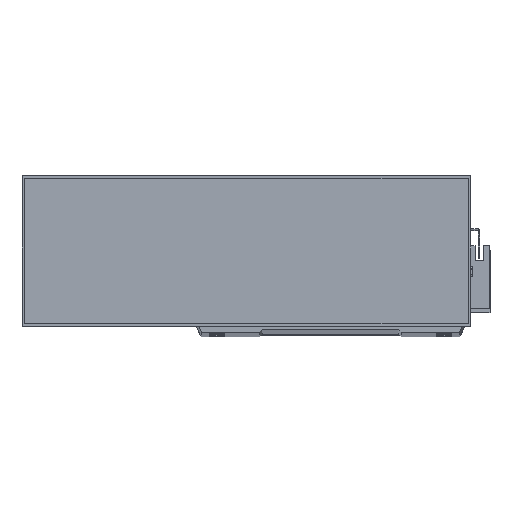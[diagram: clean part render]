
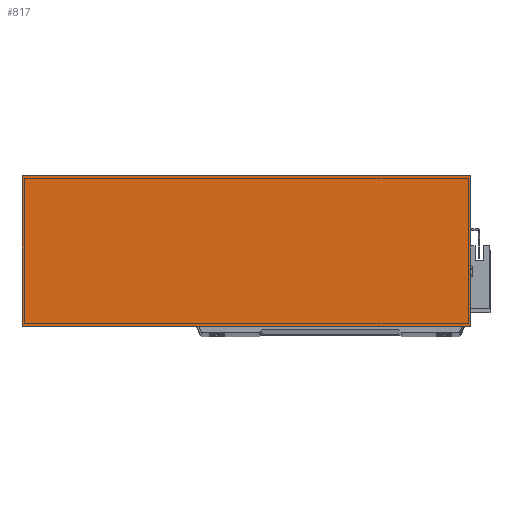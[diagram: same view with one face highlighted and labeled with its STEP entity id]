
A CAD part, top view. The second image highlights one B-rep face of the part: STEP entity #817.
In plain terms, the highlighted planar face has unit normal (0, 0, 1).
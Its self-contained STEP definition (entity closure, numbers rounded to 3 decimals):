
#475 = EDGE_CURVE ( 'NONE', #5508, #1080, #12428, .T. ) ;
#817 = ADVANCED_FACE ( 'NONE', ( #14632 ), #23972, .F. ) ;
#1080 = VERTEX_POINT ( 'NONE', #1683 ) ;
#1683 = CARTESIAN_POINT ( 'NONE',  ( 0., 93., 50. ) ) ;
#3337 = CARTESIAN_POINT ( 'NONE',  ( 277., 0., 50. ) ) ;
#4768 = VECTOR ( 'NONE', #17290, 1000. ) ;
#4957 = AXIS2_PLACEMENT_3D ( 'NONE', #16399, #24169, #24068 ) ;
#5236 = EDGE_CURVE ( 'NONE', #26557, #14274, #19202, .T. ) ;
#5508 = VERTEX_POINT ( 'NONE', #25889 ) ;
#8434 = EDGE_CURVE ( 'NONE', #14274, #5508, #12352, .T. ) ;
#10518 = DIRECTION ( 'NONE',  ( 1., 0., 0. ) ) ;
#11318 = ORIENTED_EDGE ( 'NONE', *, *, #475, .T. ) ;
#12352 = LINE ( 'NONE', #27212, #30562 ) ;
#12428 = LINE ( 'NONE', #23615, #25048 ) ;
#13559 = ORIENTED_EDGE ( 'NONE', *, *, #5236, .T. ) ;
#14274 = VERTEX_POINT ( 'NONE', #3337 ) ;
#14632 = FACE_OUTER_BOUND ( 'NONE', #27807, .T. ) ;
#14715 = EDGE_CURVE ( 'NONE', #1080, #26557, #30101, .T. ) ;
#15195 = CARTESIAN_POINT ( 'NONE',  ( 0., 0., 50. ) ) ;
#16399 = CARTESIAN_POINT ( 'NONE',  ( 0., 0., 50. ) ) ;
#17052 = DIRECTION ( 'NONE',  ( -1., 0., 0. ) ) ;
#17290 = DIRECTION ( 'NONE',  ( 0., -1., 0. ) ) ;
#17597 = DIRECTION ( 'NONE',  ( 0., 1., 0. ) ) ;
#19202 = LINE ( 'NONE', #15195, #30389 ) ;
#19655 = CARTESIAN_POINT ( 'NONE',  ( 0., 0., 50. ) ) ;
#23615 = CARTESIAN_POINT ( 'NONE',  ( 0., 93., 50. ) ) ;
#23972 = PLANE ( 'NONE',  #4957 ) ;
#24068 = DIRECTION ( 'NONE',  ( -1., 0., 0. ) ) ;
#24169 = DIRECTION ( 'NONE',  ( 0., 0., -1. ) ) ;
#25048 = VECTOR ( 'NONE', #17052, 1000. ) ;
#25889 = CARTESIAN_POINT ( 'NONE',  ( 277., 93., 50. ) ) ;
#26135 = ORIENTED_EDGE ( 'NONE', *, *, #14715, .T. ) ;
#26557 = VERTEX_POINT ( 'NONE', #28127 ) ;
#27212 = CARTESIAN_POINT ( 'NONE',  ( 277., 0., 50. ) ) ;
#27807 = EDGE_LOOP ( 'NONE', ( #26135, #13559, #30062, #11318 ) ) ;
#28127 = CARTESIAN_POINT ( 'NONE',  ( 0., 0., 50. ) ) ;
#30062 = ORIENTED_EDGE ( 'NONE', *, *, #8434, .T. ) ;
#30101 = LINE ( 'NONE', #19655, #4768 ) ;
#30389 = VECTOR ( 'NONE', #10518, 1000. ) ;
#30562 = VECTOR ( 'NONE', #17597, 1000. ) ;
